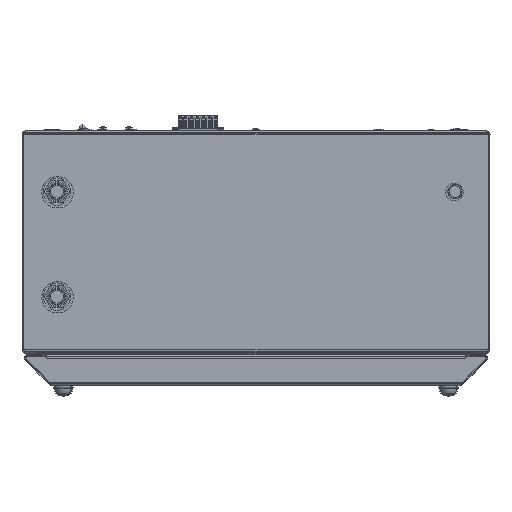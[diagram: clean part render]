
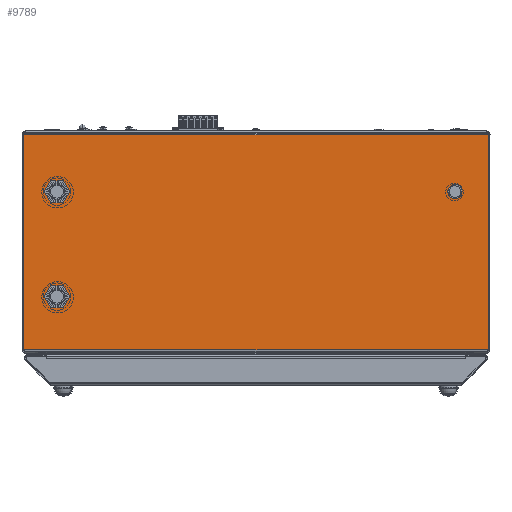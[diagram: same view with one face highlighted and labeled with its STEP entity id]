
A CAD part, front view. The second image highlights one B-rep face of the part: STEP entity #9789.
In plain terms, the highlighted planar face has unit normal (0, -1, 0).
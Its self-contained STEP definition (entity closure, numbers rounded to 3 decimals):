
#939 = VERTEX_POINT ( 'NONE', #108077 ) ;
#944 = VERTEX_POINT ( 'NONE', #108073 ) ;
#948 = VERTEX_POINT ( 'NONE', #108071 ) ;
#1607 = VERTEX_POINT ( 'NONE', #109841 ) ;
#1613 = VERTEX_POINT ( 'NONE', #109832 ) ;
#5774 = DIRECTION ( 'NONE',  ( 0., 0., 1. ) ) ;
#5775 = DIRECTION ( 'NONE',  ( 0., 1., 0. ) ) ;
#5777 = CARTESIAN_POINT ( 'NONE',  ( -6789., -1.5, -187.4 ) ) ;
#5793 = PLANE ( 'NONE',  #68654 ) ;
#9789 = ADVANCED_FACE ( 'NONE', ( #32882, #32886, #32883, #32885 ), #5793, .F. ) ;
#29886 = ORIENTED_EDGE ( 'NONE', *, *, #114240, .F. ) ;
#29889 = ORIENTED_EDGE ( 'NONE', *, *, #112781, .F. ) ;
#29892 = ORIENTED_EDGE ( 'NONE', *, *, #114242, .F. ) ;
#29895 = ORIENTED_EDGE ( 'NONE', *, *, #112786, .F. ) ;
#29897 = ORIENTED_EDGE ( 'NONE', *, *, #114244, .F. ) ;
#29899 = ORIENTED_EDGE ( 'NONE', *, *, #112791, .F. ) ;
#29901 = ORIENTED_EDGE ( 'NONE', *, *, #114238, .F. ) ;
#29903 = ORIENTED_EDGE ( 'NONE', *, *, #114246, .F. ) ;
#29905 = ORIENTED_EDGE ( 'NONE', *, *, #114203, .F. ) ;
#29907 = ORIENTED_EDGE ( 'NONE', *, *, #114248, .T. ) ;
#32882 = FACE_BOUND ( 'NONE', #68087, .T. ) ;
#32883 = FACE_BOUND ( 'NONE', #68099, .T. ) ;
#32885 = FACE_OUTER_BOUND ( 'NONE', #68092, .T. ) ;
#32886 = FACE_BOUND ( 'NONE', #68091, .T. ) ;
#37685 = CIRCLE ( 'NONE', #51572, 6.1 ) ;
#37692 = CIRCLE ( 'NONE', #51576, 8.75 ) ;
#37700 = CIRCLE ( 'NONE', #51580, 8.75 ) ;
#51572 = AXIS2_PLACEMENT_3D ( 'NONE', #79730, #79731, #79732 ) ;
#51576 = AXIS2_PLACEMENT_3D ( 'NONE', #79745, #79746, #79748 ) ;
#51580 = AXIS2_PLACEMENT_3D ( 'NONE', #79766, #79768, #79769 ) ;
#51702 = AXIS2_PLACEMENT_3D ( 'NONE', #85981, #85982, #85983 ) ;
#51718 = AXIS2_PLACEMENT_3D ( 'NONE', #85986, #85987, #85988 ) ;
#51719 = AXIS2_PLACEMENT_3D ( 'NONE', #85991, #85992, #85993 ) ;
#64301 = CARTESIAN_POINT ( 'NONE',  ( -198.929, -1.5, -187.4 ) ) ;
#64442 = CARTESIAN_POINT ( 'NONE',  ( 198.929, -1.5, -187.4 ) ) ;
#68087 = EDGE_LOOP ( 'NONE', ( #29886, #29889 ) ) ;
#68091 = EDGE_LOOP ( 'NONE', ( #29892, #29895 ) ) ;
#68092 = EDGE_LOOP ( 'NONE', ( #29901, #29903, #29905, #29907 ) ) ;
#68099 = EDGE_LOOP ( 'NONE', ( #29897, #29899 ) ) ;
#68654 = AXIS2_PLACEMENT_3D ( 'NONE', #5777, #5775, #5774 ) ;
#72410 = CARTESIAN_POINT ( 'NONE',  ( 170.5, -1.5, -58.1 ) ) ;
#72809 = CARTESIAN_POINT ( 'NONE',  ( 198.929, -1.5, -3.1 ) ) ;
#72847 = CARTESIAN_POINT ( 'NONE',  ( -198.929, -1.5, -3.1 ) ) ;
#79730 = CARTESIAN_POINT ( 'NONE',  ( 170.5, -1.5, -52. ) ) ;
#79731 = DIRECTION ( 'NONE',  ( 0., -1., 0. ) ) ;
#79732 = DIRECTION ( 'NONE',  ( 0., 0., 1. ) ) ;
#79745 = CARTESIAN_POINT ( 'NONE',  ( -170.5, -1.5, -142. ) ) ;
#79746 = DIRECTION ( 'NONE',  ( 0., -1., 0. ) ) ;
#79748 = DIRECTION ( 'NONE',  ( 0., 0., 1. ) ) ;
#79766 = CARTESIAN_POINT ( 'NONE',  ( -170.5, -1.5, -52. ) ) ;
#79768 = DIRECTION ( 'NONE',  ( 0., -1., 0. ) ) ;
#79769 = DIRECTION ( 'NONE',  ( 0., 0., 1. ) ) ;
#80909 = CARTESIAN_POINT ( 'NONE',  ( -198.929, -1.5, -187.4 ) ) ;
#83090 = VERTEX_POINT ( 'NONE', #72410 ) ;
#83565 = VERTEX_POINT ( 'NONE', #72809 ) ;
#83600 = VERTEX_POINT ( 'NONE', #72847 ) ;
#84099 = VERTEX_POINT ( 'NONE', #64301 ) ;
#84219 = VERTEX_POINT ( 'NONE', #64442 ) ;
#85942 = DIRECTION ( 'NONE',  ( 0., 0., 1. ) ) ;
#85973 = CARTESIAN_POINT ( 'NONE',  ( 198.929, -1.5, -187.4 ) ) ;
#85980 = DIRECTION ( 'NONE',  ( 0., 0., -1. ) ) ;
#85981 = CARTESIAN_POINT ( 'NONE',  ( 170.5, -1.5, -52. ) ) ;
#85982 = DIRECTION ( 'NONE',  ( 0., -1., 0. ) ) ;
#85983 = DIRECTION ( 'NONE',  ( 0., 0., 1. ) ) ;
#85984 = CARTESIAN_POINT ( 'NONE',  ( -6789., -1.5, -3.1 ) ) ;
#85985 = DIRECTION ( 'NONE',  ( 1., 0., 0. ) ) ;
#85986 = CARTESIAN_POINT ( 'NONE',  ( -170.5, -1.5, -142. ) ) ;
#85987 = DIRECTION ( 'NONE',  ( 0., -1., 0. ) ) ;
#85988 = DIRECTION ( 'NONE',  ( 0., 0., 1. ) ) ;
#85990 = CARTESIAN_POINT ( 'NONE',  ( -6789., -1.5, -187.4 ) ) ;
#85991 = CARTESIAN_POINT ( 'NONE',  ( -170.5, -1.5, -52. ) ) ;
#85992 = DIRECTION ( 'NONE',  ( 0., -1., 0. ) ) ;
#85993 = DIRECTION ( 'NONE',  ( 0., 0., 1. ) ) ;
#85995 = DIRECTION ( 'NONE',  ( 1., 0., 0. ) ) ;
#89641 = LINE ( 'NONE', #80909, #89650 ) ;
#89650 = VECTOR ( 'NONE', #85942, 1000. ) ;
#89697 = LINE ( 'NONE', #85973, #89719 ) ;
#89712 = LINE ( 'NONE', #85990, #89735 ) ;
#89716 = CIRCLE ( 'NONE', #51702, 6.1 ) ;
#89719 = VECTOR ( 'NONE', #85980, 1000. ) ;
#89722 = CIRCLE ( 'NONE', #51718, 8.75 ) ;
#89724 = CIRCLE ( 'NONE', #51719, 8.75 ) ;
#89727 = LINE ( 'NONE', #85984, #89732 ) ;
#89732 = VECTOR ( 'NONE', #85985, 1000. ) ;
#89735 = VECTOR ( 'NONE', #85995, 1000. ) ;
#108071 = CARTESIAN_POINT ( 'NONE',  ( -170.5, -1.5, -43.25 ) ) ;
#108073 = CARTESIAN_POINT ( 'NONE',  ( -170.5, -1.5, -60.75 ) ) ;
#108077 = CARTESIAN_POINT ( 'NONE',  ( -170.5, -1.5, -150.75 ) ) ;
#109832 = CARTESIAN_POINT ( 'NONE',  ( 170.5, -1.5, -45.9 ) ) ;
#109841 = CARTESIAN_POINT ( 'NONE',  ( -170.5, -1.5, -133.25 ) ) ;
#112781 = EDGE_CURVE ( 'NONE', #83090, #1613, #37685, .T. ) ;
#112786 = EDGE_CURVE ( 'NONE', #939, #1607, #37692, .T. ) ;
#112791 = EDGE_CURVE ( 'NONE', #944, #948, #37700, .T. ) ;
#114203 = EDGE_CURVE ( 'NONE', #84099, #83600, #89641, .T. ) ;
#114238 = EDGE_CURVE ( 'NONE', #83565, #84219, #89697, .T. ) ;
#114240 = EDGE_CURVE ( 'NONE', #1613, #83090, #89716, .T. ) ;
#114242 = EDGE_CURVE ( 'NONE', #1607, #939, #89722, .T. ) ;
#114244 = EDGE_CURVE ( 'NONE', #948, #944, #89724, .T. ) ;
#114246 = EDGE_CURVE ( 'NONE', #83600, #83565, #89727, .T. ) ;
#114248 = EDGE_CURVE ( 'NONE', #84099, #84219, #89712, .T. ) ;
